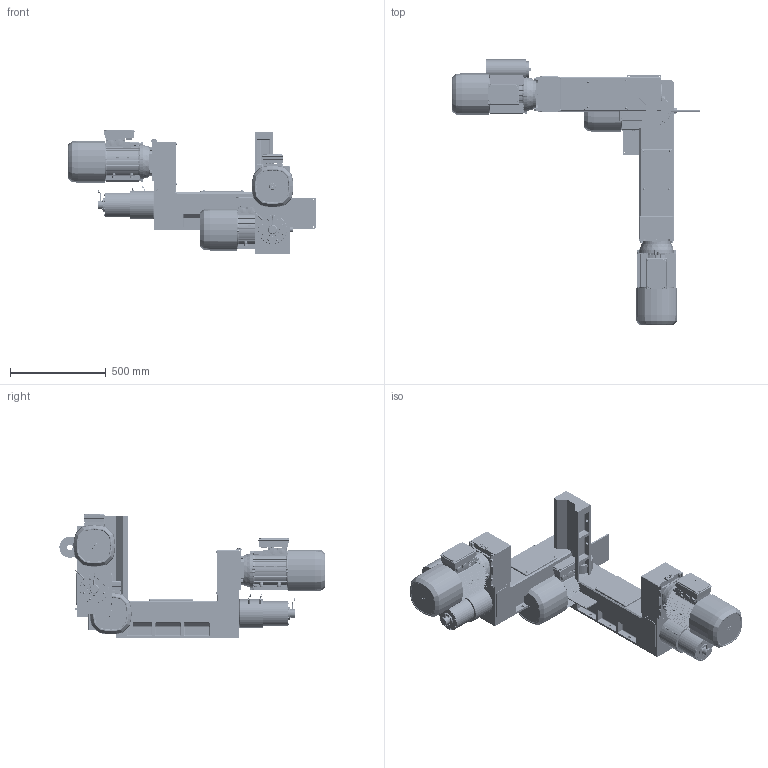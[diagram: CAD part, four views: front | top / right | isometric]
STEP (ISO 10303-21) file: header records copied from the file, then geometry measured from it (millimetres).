
FILE_DESCRIPTION( ( 'STEP AP203' ), '1' );
FILE_NAME( 'C:/Documents and Settings/Saverio/Desktop/disegni ironcad/unità serie 3/M 330 A (ex M345A)/M 330 A_P.stp', '2014-03-25T14:37:07', ( ' ' ), ( ' ' ), 'XStep 1.0', ' ', ' ' );
FILE_SCHEMA( ( 'CONFIG_CONTROL_DESIGN' ) );
Length unit declared in the file: metre
Products named in the file (68): Assem1; Assem2; Assem3; Assem4; 1; 2; 3; 4; 5; 6; 7; 8; 9; 10; 11; 12; 13; 14; 15; 16; 17; 18; 19; 20; 21; 22; 23; 24; 25; 26; 27; 28; 29; 30; 31; 32; 33; 34; 35; 36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
Bounding box: 1293 x 1387.46 x 653.19 mm (x, y, z)
Volume: 99771148.9 mm3; surface area: 10566785.1 mm2
Topology: 204 solids, 207 shells, 10292 faces, 25663 edges, 16097 vertices
Faces by surface type: plane 4182, cylinder 2515, cone 1292, torus 1067, bspline 1032, sphere 204
Full cylindrical faces by diameter (mm): 2.6 x16, 3 x3, 3.6 x16, 3.7 x4, 4 x16, 5 x45, 5.5 x36, 6 x55, 6.5 x57, 6.75 x6, 6.8 x16, 6.985 x16, 7 x3, 8 x13, 8.5 x48, 8.758 x3, 9.87 x9, 10 x12, 10.25 x12, 10.5 x10, 11 x4, 14.5 x18, 16.5 x8, 20 x8, 23.782 x8, 25 x8, 27 x8, 28 x8, 28.6 x4, 30 x20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
Entity records: 93471 total; most frequent: CARTESIAN_POINT 27904, ORIENTED_EDGE 12964, DIRECTION 12426, EDGE_CURVE 6482, AXIS2_PLACEMENT_3D 4798, VERTEX_POINT 4263, EDGE_LOOP 3416, FACE_OUTER_BOUND 3051
